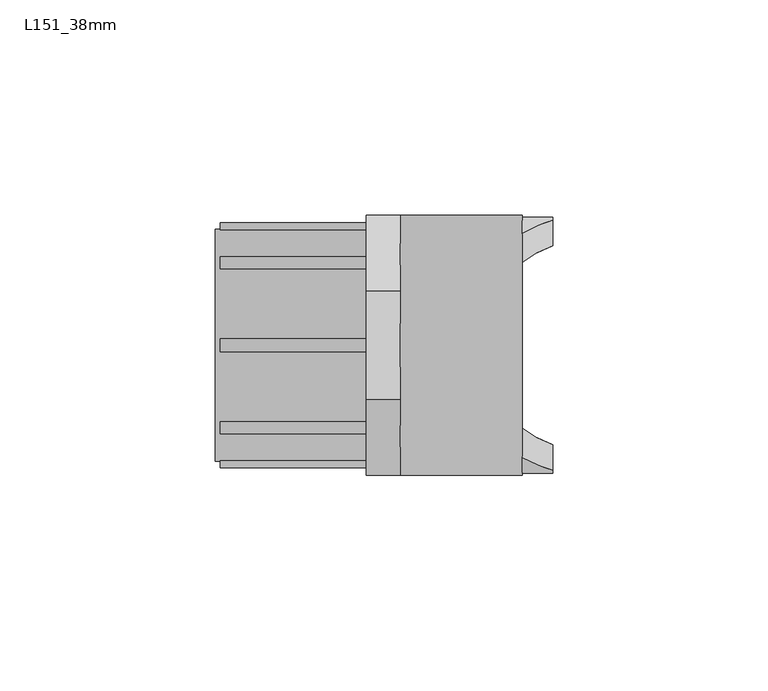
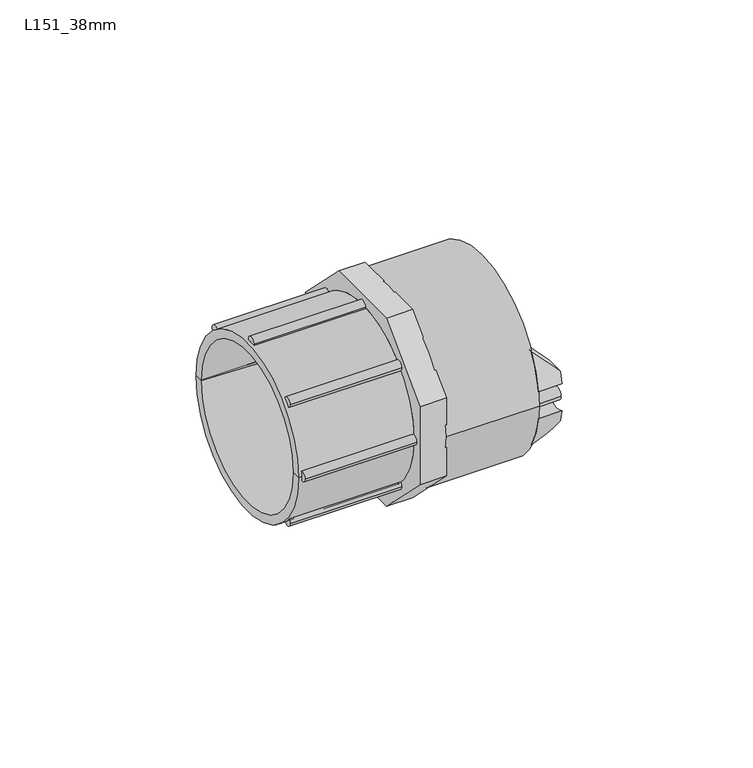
"""IFC4 building model written with IfcOpenShell, lengths in millimetres: pipe fitting geometry, Durapipe_PipeFitting_VulcatheneEnfusion_FItoPipeCoupler_L15 : L151_38mm."""

from ifc_helpers import new_model, si_unit, point, frame, frame_2d, origin, place, context, project, spatial, polyline, circle_curve, ellipse_curve, trimmed, segment, composite_curve, outline, extrude, source, transform, mapped, element, save
from ifc_brep_helpers import plane_surface, cylinder_surface, revolved_surface, advanced_brep


def l151_38mm_5ce0dcf7(model_context):
    return source(origin(), model_context, "Body", "SolidModel", [
        extrude(outline(composite_curve([segment(trimmed(circle_curve(frame_2d((-26.95, 0.0)), 1.5), [point((-25.45, 0.0))], [point((-28.45, 0.0))], False, "CARTESIAN"), True, "CONTINUOUS"), segment(trimmed(circle_curve(frame_2d((-26.95, 0.0)), 1.5), [point((-28.45, 0.0))], [point((-25.45, 0.0))], False, "CARTESIAN"), True, "CONTINUOUS")], self_intersect=False)), frame((-34.509375, 0.0, 0.0), z_axis=(1.0, 0.0, 0.0), x_axis=(0.0, 1.0, 0.0)), (0.0, 0.0, 1.0), 33.9189),
        extrude(outline(composite_curve([segment(trimmed(circle_curve(frame_2d((-19.0565278, -19.0565278)), 1.5), [point((-17.5565278, -19.0565278))], [point((-20.5565278, -19.0565278))], False, "CARTESIAN"), True, "CONTINUOUS"), segment(trimmed(circle_curve(frame_2d((-19.0565278, -19.0565278)), 1.5), [point((-20.5565278, -19.0565278))], [point((-17.5565278, -19.0565278))], False, "CARTESIAN"), True, "CONTINUOUS")], self_intersect=False)), frame((-34.509375, 0.0, 0.0), z_axis=(1.0, 0.0, 0.0), x_axis=(0.0, 1.0, 0.0)), (0.0, 0.0, 1.0), 33.9189),
        extrude(outline(composite_curve([segment(trimmed(circle_curve(frame_2d((0.0, -26.95)), 1.5), [point((1.5, -26.95))], [point((-1.5, -26.95))], False, "CARTESIAN"), True, "CONTINUOUS"), segment(trimmed(circle_curve(frame_2d((0.0, -26.95)), 1.5), [point((-1.5, -26.95))], [point((1.5, -26.95))], False, "CARTESIAN"), True, "CONTINUOUS")], self_intersect=False)), frame((-34.509375, 0.0, 0.0), z_axis=(1.0, 0.0, 0.0), x_axis=(0.0, 1.0, 0.0)), (0.0, 0.0, 1.0), 33.9189),
        extrude(outline(composite_curve([segment(trimmed(circle_curve(frame_2d((19.0565278, -19.0565278)), 1.5), [point((20.5565278, -19.0565278))], [point((17.5565278, -19.0565278))], False, "CARTESIAN"), True, "CONTINUOUS"), segment(trimmed(circle_curve(frame_2d((19.0565278, -19.0565278)), 1.5), [point((17.5565278, -19.0565278))], [point((20.5565278, -19.0565278))], False, "CARTESIAN"), True, "CONTINUOUS")], self_intersect=False)), frame((-34.509375, 0.0, 0.0), z_axis=(1.0, 0.0, 0.0), x_axis=(0.0, 1.0, 0.0)), (0.0, 0.0, 1.0), 33.9189),
        extrude(outline(composite_curve([segment(trimmed(circle_curve(frame_2d((26.95, 0.0)), 1.5), [point((28.45, 0.0))], [point((25.45, 0.0))], False, "CARTESIAN"), True, "CONTINUOUS"), segment(trimmed(circle_curve(frame_2d((26.95, 0.0)), 1.5), [point((25.45, 0.0))], [point((28.45, 0.0))], False, "CARTESIAN"), True, "CONTINUOUS")], self_intersect=False)), frame((-34.509375, 0.0, 0.0), z_axis=(1.0, 0.0, 0.0), x_axis=(0.0, 1.0, 0.0)), (0.0, 0.0, 1.0), 33.9189),
        extrude(outline(composite_curve([segment(trimmed(circle_curve(frame_2d((19.0565278, 19.0565278)), 1.5), [point((20.5565278, 19.0565278))], [point((17.5565278, 19.0565278))], False, "CARTESIAN"), True, "CONTINUOUS"), segment(trimmed(circle_curve(frame_2d((19.0565278, 19.0565278)), 1.5), [point((17.5565278, 19.0565278))], [point((20.5565278, 19.0565278))], False, "CARTESIAN"), True, "CONTINUOUS")], self_intersect=False)), frame((-34.509375, 0.0, 0.0), z_axis=(1.0, 0.0, 0.0), x_axis=(0.0, 1.0, 0.0)), (0.0, 0.0, 1.0), 33.9189),
        extrude(outline(composite_curve([segment(trimmed(circle_curve(frame_2d((0.0, 26.95)), 1.5), [point((1.5, 26.95))], [point((-1.5, 26.95))], False, "CARTESIAN"), True, "CONTINUOUS"), segment(trimmed(circle_curve(frame_2d((0.0, 26.95)), 1.5), [point((-1.5, 26.95))], [point((1.5, 26.95))], False, "CARTESIAN"), True, "CONTINUOUS")], self_intersect=False)), frame((-34.509375, 0.0, 0.0), z_axis=(1.0, 0.0, 0.0), x_axis=(0.0, 1.0, 0.0)), (0.0, 0.0, 1.0), 33.9189),
        extrude(outline(composite_curve([segment(trimmed(circle_curve(frame_2d((-19.0565278, 19.0565278)), 1.5), [point((-17.5565278, 19.0565278))], [point((-20.5565278, 19.0565278))], False, "CARTESIAN"), True, "CONTINUOUS"), segment(trimmed(circle_curve(frame_2d((-19.0565278, 19.0565278)), 1.5), [point((-20.5565278, 19.0565278))], [point((-17.5565278, 19.0565278))], False, "CARTESIAN"), True, "CONTINUOUS")], self_intersect=False)), frame((-34.509375, 0.0, 0.0), z_axis=(1.0, 0.0, 0.0), x_axis=(0.0, 1.0, 0.0)), (0.0, 0.0, 1.0), 33.9189),
        advanced_brep(
        [(42.8, 24.1380041, 3.893489), (42.8, 29.7880041, 4.322593), (42.8, 29.0338837, 7.94), (42.8, 23.1248546, 7.94), (35.7, 26.0961683, 15.0), (35.7, 29.7880041, 4.322593), (35.7, 24.1380041, 3.893489), (35.7, 19.3080942, 15.0)],
        [
            (0, 1, circle_curve(frame((42.8, 27.275, 0.0), z_axis=(-1.0, 0.0, 0.0), x_axis=(0.0, -1.0, 0.0)), 5.0)),
            (1, 2, circle_curve(frame((42.8, 0.0, 0.0), z_axis=(1.0, 0.0, 0.0), x_axis=(0.0, -1.0, 0.0)), 30.1)),
            (2, 3),
            (3, 0, circle_curve(frame((42.8, 0.0, 0.0), z_axis=(-1.0, 0.0, 0.0), x_axis=(0.0, -1.0, 0.0)), 24.45)),
            (4, 5, circle_curve(frame((35.7, 0.0, 0.0), z_axis=(-1.0, 0.0, 0.0), x_axis=(0.0, -1.0, 0.0)), 30.1)),
            (5, 6, circle_curve(frame((35.7, 27.275, 0.0), z_axis=(1.0, 0.0, 0.0), x_axis=(0.0, -1.0, 0.0)), 5.0)),
            (6, 7, circle_curve(frame((35.7, 0.0, 0.0), z_axis=(1.0, 0.0, 0.0), x_axis=(0.0, -1.0, 0.0)), 24.45)),
            (7, 4),
            (6, 0),
            (3, 7, ellipse_curve(frame((50.7849858, 0.0, 0.0), z_axis=(0.7051064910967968, 0.0, 0.7091014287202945), x_axis=(-0.7091014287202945, 0.0, 0.7051064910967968)), 34.6756133, 24.45)),
            (4, 2, ellipse_curve(frame((50.7849858, 0.0, 0.0), z_axis=(-0.7051064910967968, 0.0, -0.7091014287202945), x_axis=(0.7091014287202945, 0.0, -0.7051064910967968)), 42.6885873, 30.1)),
            (1, 5),
        ],
        [
            plane_surface(frame((42.8, 26.0961683, 15.0), z_axis=(1.0, 0.0, 0.0), x_axis=(0.0, -1.0, 0.0))),
            plane_surface(frame((35.7, 26.0961683, 15.0), z_axis=(-1.0, 0.0, 0.0), x_axis=(0.0, 1.0, 0.0))),
            revolved_surface(polyline([(26.196458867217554, -24.45, 0.0), (75.37351273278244, -24.45, 0.0)]), (35.7, 0.0, 0.0), (-1.0, 0.0, 0.0)),
            cylinder_surface(frame((35.7, 0.0, 0.0), z_axis=(1.0, 0.0, 0.0), x_axis=(0.0, -1.0, 0.0)), 30.1),
            revolved_surface(polyline([(42.8, 22.275, 0.0), (35.7, 22.275, 0.0)]), (35.7, 27.275, 0.0), (1.0, 0.0, 0.0)),
            plane_surface(frame((35.7, -30.1, 15.0), z_axis=(0.7051064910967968, 0.0, 0.7091014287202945), x_axis=(0.0, 1.0, 0.0))),
        ],
        [
            (0, [[1, 2, 3, 4]]),
            (1, [[5, 6, 7, 8]]),
            (2, [[-7, 9, -4, 10]]),
            (3, [[-5, 11, -2, 12]]),
            (4, [[-1, -9, -6, -12]]),
            (5, [[-3, -11, -8, -10]]),
        ],
    ),
        advanced_brep(
        [(42.8, 29.7880041, -4.322593), (42.8, 24.1380041, -3.893489), (42.8, 23.1248546, -7.94), (42.8, 29.0338837, -7.94), (35.7, 29.7880041, -4.322593), (35.7, 26.0961683, -15.0), (35.7, 19.3080942, -15.0), (35.7, 24.1380041, -3.893489)],
        [
            (0, 1, circle_curve(frame((42.8, 27.275, 0.0), z_axis=(-1.0, 0.0, 0.0), x_axis=(0.0, -1.0, 0.0)), 5.0)),
            (1, 2, circle_curve(frame((42.8, 0.0, 0.0), z_axis=(-1.0, 0.0, 0.0), x_axis=(0.0, -1.0, 0.0)), 24.45)),
            (2, 3),
            (3, 0, circle_curve(frame((42.8, 0.0, 0.0), z_axis=(1.0, 0.0, 0.0), x_axis=(0.0, -1.0, 0.0)), 30.1)),
            (4, 5, circle_curve(frame((35.7, 0.0, 0.0), z_axis=(-1.0, 0.0, 0.0), x_axis=(0.0, -1.0, 0.0)), 30.1)),
            (5, 6),
            (6, 7, circle_curve(frame((35.7, 0.0, 0.0), z_axis=(1.0, 0.0, 0.0), x_axis=(0.0, -1.0, 0.0)), 24.45)),
            (7, 4, circle_curve(frame((35.7, 27.275, 0.0), z_axis=(1.0, 0.0, 0.0), x_axis=(0.0, -1.0, 0.0)), 5.0)),
            (6, 2, ellipse_curve(frame((50.7849858, 0.0, 0.0), z_axis=(0.7051064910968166, 0.0, -0.7091014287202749), x_axis=(-0.7091014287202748, 0.0, -0.7051064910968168)), 34.6756133, 24.45)),
            (1, 7),
            (4, 0),
            (3, 5, ellipse_curve(frame((50.7849858, 0.0, 0.0), z_axis=(-0.7051064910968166, 0.0, 0.7091014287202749), x_axis=(0.7091014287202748, 0.0, 0.7051064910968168)), 42.6885873, 30.1)),
        ],
        [
            plane_surface(frame((42.8, 26.0961683, 15.0), z_axis=(1.0, 0.0, 0.0), x_axis=(0.0, -1.0, 0.0))),
            plane_surface(frame((35.7, 26.0961683, 15.0), z_axis=(-1.0, 0.0, 0.0), x_axis=(0.0, 1.0, 0.0))),
            revolved_surface(polyline([(26.196458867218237, -24.45, 0.0), (75.37351273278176, -24.45, 0.0)]), (35.7, 0.0, 0.0), (-1.0, 0.0, 0.0)),
            cylinder_surface(frame((35.7, 0.0, 0.0), z_axis=(1.0, 0.0, 0.0), x_axis=(0.0, -1.0, 0.0)), 30.1),
            revolved_surface(polyline([(42.8, 22.275, 0.0), (35.7, 22.275, 0.0)]), (35.7, 27.275, 0.0), (1.0, 0.0, 0.0)),
            plane_surface(frame((42.8, -30.1, -7.94), z_axis=(0.7051064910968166, 0.0, -0.7091014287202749), x_axis=(0.0, 1.0, 0.0))),
        ],
        [
            (0, [[1, 2, 3, 4]]),
            (1, [[5, 6, 7, 8]]),
            (2, [[-7, 9, -2, 10]]),
            (3, [[-5, 11, -4, 12]]),
            (4, [[-1, -11, -8, -10]]),
            (5, [[-3, -9, -6, -12]]),
        ],
    ),
        advanced_brep(
        [(42.8, -29.7880041, 4.322593), (42.8, -24.1380041, 3.893489), (42.8, -23.1248546, 7.94), (42.8, -29.0338837, 7.94), (35.7, -29.7880041, 4.322593), (35.7, -26.0961683, 15.0), (35.7, -19.3080942, 15.0), (35.7, -24.1380041, 3.893489)],
        [
            (0, 1, circle_curve(frame((42.8, -27.275, 0.0), z_axis=(-1.0, 0.0, 0.0), x_axis=(0.0, -1.0, 0.0)), 5.0)),
            (1, 2, circle_curve(frame((42.8, 0.0, 0.0), z_axis=(-1.0, 0.0, 0.0), x_axis=(0.0, -1.0, 0.0)), 24.45)),
            (2, 3),
            (3, 0, circle_curve(frame((42.8, 0.0, 0.0), z_axis=(1.0, 0.0, 0.0), x_axis=(0.0, -1.0, 0.0)), 30.1)),
            (4, 5, circle_curve(frame((35.7, 0.0, 0.0), z_axis=(-1.0, 0.0, 0.0), x_axis=(0.0, -1.0, 0.0)), 30.1)),
            (5, 6),
            (6, 7, circle_curve(frame((35.7, 0.0, 0.0), z_axis=(1.0, 0.0, 0.0), x_axis=(0.0, -1.0, 0.0)), 24.45)),
            (7, 4, circle_curve(frame((35.7, -27.275, 0.0), z_axis=(1.0, 0.0, 0.0), x_axis=(0.0, -1.0, 0.0)), 5.0)),
            (6, 2, ellipse_curve(frame((50.7849858, 0.0, 0.0), z_axis=(0.7051064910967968, 0.0, 0.7091014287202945), x_axis=(-0.7091014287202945, 0.0, 0.7051064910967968)), 34.6756133, 24.45)),
            (1, 7),
            (4, 0),
            (3, 5, ellipse_curve(frame((50.7849858, 0.0, 0.0), z_axis=(-0.7051064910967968, 0.0, -0.7091014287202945), x_axis=(0.7091014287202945, 0.0, -0.7051064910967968)), 42.6885873, 30.1)),
        ],
        [
            plane_surface(frame((42.8, 26.0961683, 15.0), z_axis=(1.0, 0.0, 0.0), x_axis=(0.0, -1.0, 0.0))),
            plane_surface(frame((35.7, 26.0961683, 15.0), z_axis=(-1.0, 0.0, 0.0), x_axis=(0.0, 1.0, 0.0))),
            revolved_surface(polyline([(26.196458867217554, -24.45, 0.0), (75.37351273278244, -24.45, 0.0)]), (35.7, 0.0, 0.0), (-1.0, 0.0, 0.0)),
            cylinder_surface(frame((35.7, 0.0, 0.0), z_axis=(1.0, 0.0, 0.0), x_axis=(0.0, -1.0, 0.0)), 30.1),
            revolved_surface(polyline([(42.8, -32.275, 0.0), (35.7, -32.275, 0.0)]), (35.7, -27.275, 0.0), (1.0, 0.0, 0.0)),
            plane_surface(frame((35.7, -30.1, 15.0), z_axis=(0.7051064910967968, 0.0, 0.7091014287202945), x_axis=(0.0, 1.0, 0.0))),
        ],
        [
            (0, [[1, 2, 3, 4]]),
            (1, [[5, 6, 7, 8]]),
            (2, [[-7, 9, -2, 10]]),
            (3, [[-5, 11, -4, 12]]),
            (4, [[-1, -11, -8, -10]]),
            (5, [[-3, -9, -6, -12]]),
        ],
    ),
        advanced_brep(
        [(42.8, -24.1380041, -3.893489), (42.8, -29.7880041, -4.322593), (42.8, -29.0338837, -7.94), (42.8, -23.1248546, -7.94), (35.7, -26.0961683, -15.0), (35.7, -29.7880041, -4.322593), (35.7, -24.1380041, -3.893489), (35.7, -19.3080942, -15.0)],
        [
            (0, 1, circle_curve(frame((42.8, -27.275, 0.0), z_axis=(-1.0, 0.0, 0.0), x_axis=(0.0, -1.0, 0.0)), 5.0)),
            (1, 2, circle_curve(frame((42.8, 0.0, 0.0), z_axis=(1.0, 0.0, 0.0), x_axis=(0.0, -1.0, 0.0)), 30.1)),
            (2, 3),
            (3, 0, circle_curve(frame((42.8, 0.0, 0.0), z_axis=(-1.0, 0.0, 0.0), x_axis=(0.0, -1.0, 0.0)), 24.45)),
            (4, 5, circle_curve(frame((35.7, 0.0, 0.0), z_axis=(-1.0, 0.0, 0.0), x_axis=(0.0, -1.0, 0.0)), 30.1)),
            (5, 6, circle_curve(frame((35.7, -27.275, 0.0), z_axis=(1.0, 0.0, 0.0), x_axis=(0.0, -1.0, 0.0)), 5.0)),
            (6, 7, circle_curve(frame((35.7, 0.0, 0.0), z_axis=(1.0, 0.0, 0.0), x_axis=(0.0, -1.0, 0.0)), 24.45)),
            (7, 4),
            (6, 0),
            (3, 7, ellipse_curve(frame((50.7849858, 0.0, 0.0), z_axis=(0.7051064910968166, 0.0, -0.7091014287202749), x_axis=(-0.7091014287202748, 0.0, -0.7051064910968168)), 34.6756133, 24.45)),
            (4, 2, ellipse_curve(frame((50.7849858, 0.0, 0.0), z_axis=(-0.7051064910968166, 0.0, 0.7091014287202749), x_axis=(0.7091014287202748, 0.0, 0.7051064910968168)), 42.6885873, 30.1)),
            (1, 5),
        ],
        [
            plane_surface(frame((42.8, 26.0961683, 15.0), z_axis=(1.0, 0.0, 0.0), x_axis=(0.0, -1.0, 0.0))),
            plane_surface(frame((35.7, 26.0961683, 15.0), z_axis=(-1.0, 0.0, 0.0), x_axis=(0.0, 1.0, 0.0))),
            revolved_surface(polyline([(26.196458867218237, -24.45, 0.0), (75.37351273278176, -24.45, 0.0)]), (35.7, 0.0, 0.0), (-1.0, 0.0, 0.0)),
            cylinder_surface(frame((35.7, 0.0, 0.0), z_axis=(1.0, 0.0, 0.0), x_axis=(0.0, -1.0, 0.0)), 30.1),
            revolved_surface(polyline([(42.8, -32.275, 0.0), (35.7, -32.275, 0.0)]), (35.7, -27.275, 0.0), (1.0, 0.0, 0.0)),
            plane_surface(frame((42.8, -30.1, -7.94), z_axis=(0.7051064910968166, 0.0, -0.7091014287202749), x_axis=(0.0, 1.0, 0.0))),
        ],
        [
            (0, [[1, 2, 3, 4]]),
            (1, [[5, 6, 7, 8]]),
            (2, [[-7, 9, -4, 10]]),
            (3, [[-5, 11, -2, 12]]),
            (4, [[-1, -9, -6, -12]]),
            (5, [[-3, -11, -8, -10]]),
        ],
    ),
        extrude(outline(composite_curve([segment(trimmed(circle_curve(frame_2d((27.275, 0.0)), 2.0), [point((29.275, 0.0))], [point((25.275, 0.0))], False, "CARTESIAN"), True, "CONTINUOUS"), segment(trimmed(circle_curve(frame_2d((27.275, 0.0)), 2.0), [point((25.275, 0.0))], [point((29.275, 0.0))], False, "CARTESIAN"), True, "CONTINUOUS")], self_intersect=False)), frame((35.7, 0.0, 0.0), z_axis=(1.0, 0.0, 0.0), x_axis=(0.0, 1.0, 0.0)), (0.0, 0.0, 1.0), 7.1),
        extrude(outline(composite_curve([segment(trimmed(circle_curve(frame_2d((-27.275, 0.0)), 2.0), [point((-25.275, 0.0))], [point((-29.275, 0.0))], False, "CARTESIAN"), True, "CONTINUOUS"), segment(trimmed(circle_curve(frame_2d((-27.275, 0.0)), 2.0), [point((-29.275, 0.0))], [point((-25.275, 0.0))], False, "CARTESIAN"), True, "CONTINUOUS")], self_intersect=False)), frame((35.7, 0.0, 0.0), z_axis=(1.0, 0.0, 0.0), x_axis=(0.0, 1.0, 0.0)), (0.0, 0.0, 1.0), 7.1),
        advanced_brep(
        [(35.7, 30.25, 0.0), (35.7, -30.25, 0.0), (7.347025, -30.25, 0.0), (7.347025, -21.3899801, -21.3899801), (7.347025, 0.0, -30.25), (7.347025, 21.3899801, -21.3899801), (7.347025, 30.25, 0.0), (7.347025, 21.3899801, 21.3899801), (7.347025, 0.0, 30.25), (7.347025, -21.3899801, 21.3899801), (-35.7, -24.3, 0.0), (-35.7, 24.3, 0.0), (-35.7, 27.0, 0.0), (-35.7, -27.0, 0.0), (35.7, 24.3, 0.0), (35.7, -24.3, 0.0), (10.2, -20.3, 0.0), (10.2, 20.3, 0.0), (3.7, 20.3, 0.0), (3.7, -20.3, 0.0), (10.2, -24.3, 0.0), (10.2, 24.3, 0.0), (2.9, -22.85, 0.0), (2.9, 22.85, 0.0), (-0.590475, -30.25, 12.5299603), (-0.590475, -12.5299603, 30.25), (-0.590475, 12.5299603, 30.25), (-0.590475, 30.25, 12.5299603), (-0.590475, 30.25, -12.5299603), (-0.590475, 12.5299603, -30.25), (-0.590475, -12.5299603, -30.25), (-0.590475, -30.25, -12.5299603), (-0.590475, -27.0, 0.0), (-0.590475, 27.0, 0.0), (7.347025, 30.25, -12.5299603), (7.347025, 30.25, 12.5299603), (7.347025, -30.25, 12.5299603), (7.347025, -30.25, -12.5299603), (7.347025, 12.5299603, 30.25), (7.347025, -12.5299603, 30.25), (7.347025, -12.5299603, -30.25), (7.347025, 12.5299603, -30.25)],
        [
            (0, 1, circle_curve(frame((35.7, 0.0, 0.0), z_axis=(-1.0, 0.0, 0.0), x_axis=(0.0, 1.0, 0.0)), 30.25)),
            (1, 2),
            (2, 3, circle_curve(frame((7.347025, 0.0, 0.0), z_axis=(1.0, 0.0, 0.0), x_axis=(0.0, 1.0, 0.0)), 30.25)),
            (3, 4, circle_curve(frame((7.347025, 0.0, 0.0), z_axis=(1.0, 0.0, 0.0), x_axis=(0.0, 1.0, 0.0)), 30.25)),
            (4, 5, circle_curve(frame((7.347025, 0.0, 0.0), z_axis=(1.0, 0.0, 0.0), x_axis=(0.0, 1.0, 0.0)), 30.25)),
            (5, 6, circle_curve(frame((7.347025, 0.0, 0.0), z_axis=(1.0, 0.0, 0.0), x_axis=(0.0, 1.0, 0.0)), 30.25)),
            (6, 0),
            (1, 0, circle_curve(frame((35.7, 0.0, 0.0), z_axis=(-1.0, 0.0, 0.0), x_axis=(0.0, 1.0, 0.0)), 30.25)),
            (6, 7, circle_curve(frame((7.347025, 0.0, 0.0), z_axis=(1.0, 0.0, 0.0), x_axis=(0.0, 1.0, 0.0)), 30.25)),
            (7, 8, circle_curve(frame((7.347025, 0.0, 0.0), z_axis=(1.0, 0.0, 0.0), x_axis=(0.0, 1.0, 0.0)), 30.25)),
            (8, 9, circle_curve(frame((7.347025, 0.0, 0.0), z_axis=(1.0, 0.0, 0.0), x_axis=(0.0, 1.0, 0.0)), 30.25)),
            (9, 2, circle_curve(frame((7.347025, 0.0, 0.0), z_axis=(1.0, 0.0, 0.0), x_axis=(0.0, 1.0, 0.0)), 30.25)),
            (10, 11, circle_curve(frame((-35.7, 0.0, 0.0), z_axis=(1.0, 0.0, 0.0), x_axis=(0.0, 1.0, 0.0)), 24.3)),
            (11, 12),
            (12, 13, circle_curve(frame((-35.7, 0.0, 0.0), z_axis=(-1.0, 0.0, 0.0), x_axis=(0.0, 1.0, 0.0)), 27.0)),
            (13, 10),
            (11, 10, circle_curve(frame((-35.7, 0.0, 0.0), z_axis=(1.0, 0.0, 0.0), x_axis=(0.0, 1.0, 0.0)), 24.3)),
            (13, 12, circle_curve(frame((-35.7, 0.0, 0.0), z_axis=(-1.0, 0.0, 0.0), x_axis=(0.0, 1.0, 0.0)), 27.0)),
            (0, 14),
            (14, 15, circle_curve(frame((35.7, 0.0, 0.0), z_axis=(-1.0, 0.0, 0.0), x_axis=(0.0, 1.0, 0.0)), 24.3)),
            (15, 1),
            (15, 14, circle_curve(frame((35.7, 0.0, 0.0), z_axis=(-1.0, 0.0, 0.0), x_axis=(0.0, 1.0, 0.0)), 24.3)),
            (16, 17, circle_curve(frame((10.2, 0.0, 0.0), z_axis=(1.0, 0.0, 0.0), x_axis=(0.0, 1.0, 0.0)), 20.3)),
            (17, 18),
            (18, 19, circle_curve(frame((3.7, 0.0, 0.0), z_axis=(-1.0, 0.0, 0.0), x_axis=(0.0, 1.0, 0.0)), 20.3)),
            (19, 16),
            (17, 16, circle_curve(frame((10.2, 0.0, 0.0), z_axis=(1.0, 0.0, 0.0), x_axis=(0.0, 1.0, 0.0)), 20.3)),
            (19, 18, circle_curve(frame((3.7, 0.0, 0.0), z_axis=(-1.0, 0.0, 0.0), x_axis=(0.0, 1.0, 0.0)), 20.3)),
            (16, 20),
            (20, 21, circle_curve(frame((10.2, 0.0, 0.0), z_axis=(1.0, 0.0, 0.0), x_axis=(0.0, 1.0, 0.0)), 24.3)),
            (21, 17),
            (21, 20, circle_curve(frame((10.2, 0.0, 0.0), z_axis=(1.0, 0.0, 0.0), x_axis=(0.0, 1.0, 0.0)), 24.3)),
            (14, 21),
            (20, 15),
            (10, 22),
            (22, 23, circle_curve(frame((2.9, 0.0, 0.0), z_axis=(1.0, 0.0, 0.0), x_axis=(0.0, 1.0, 0.0)), 22.85)),
            (23, 11),
            (23, 22, circle_curve(frame((2.9, 0.0, 0.0), z_axis=(1.0, 0.0, 0.0), x_axis=(0.0, 1.0, 0.0)), 22.85)),
            (18, 23),
            (22, 19),
            (24, 25),
            (25, 26),
            (26, 27),
            (27, 28),
            (28, 29),
            (29, 30),
            (30, 31),
            (31, 24),
            (32, 33, circle_curve(frame((-0.590475, 0.0, 0.0), z_axis=(1.0, 0.0, 0.0), x_axis=(0.0, 1.0, 0.0)), 27.0)),
            (33, 32, circle_curve(frame((-0.590475, 0.0, 0.0), z_axis=(1.0, 0.0, 0.0), x_axis=(0.0, 1.0, 0.0)), 27.0)),
            (12, 33),
            (32, 13),
            (34, 6),
            (5, 34),
            (6, 35),
            (35, 7),
            (36, 2),
            (9, 36),
            (2, 37),
            (37, 3),
            (38, 8),
            (7, 38),
            (8, 39),
            (39, 9),
            (3, 40),
            (40, 4),
            (4, 41),
            (41, 5),
            (38, 26),
            (25, 39),
            (24, 36),
            (31, 37),
            (30, 40),
            (29, 41),
            (28, 34),
            (27, 35),
        ],
        [
            cylinder_surface(frame((1572.8518184, 0.0, 0.0), z_axis=(-1.0, 0.0, 0.0), x_axis=(0.0, 1.0, 0.0)), 30.25),
            plane_surface(frame((-35.7, 0.0, 0.0), z_axis=(-1.0, 0.0, 0.0), x_axis=(0.0, 1.0, 0.0))),
            plane_surface(frame((35.7, 0.0, 0.0), z_axis=(1.0, 0.0, 0.0), x_axis=(0.0, 1.0, 0.0))),
            revolved_surface(polyline([(3.7000000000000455, 20.3, 0.0), (10.200000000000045, 20.3, 0.0)]), (1572.8518184, 0.0, 0.0), (-1.0, 0.0, 0.0)),
            plane_surface(frame((10.2, 0.0, 0.0), z_axis=(1.0, 0.0, 0.0), x_axis=(0.0, 1.0, 0.0))),
            revolved_surface(polyline([(10.200000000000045, 24.3, 0.0), (35.700000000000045, 24.3, 0.0)]), (1572.8518184, 0.0, 0.0), (-1.0, 0.0, 0.0)),
            revolved_surface(polyline([(-35.7, 24.3, 0.0), (2.9, 22.85, 0.0)]), (1572.8518184, 0.0, 0.0), (-1.0, 0.0, 0.0)),
            revolved_surface(polyline([(2.9, 22.85, 0.0), (3.7, 20.3, 0.0)]), (1572.8518184, 0.0, 0.0), (-1.0, 0.0, 0.0)),
            plane_surface(frame((-0.590475, 0.0, 0.0), z_axis=(-1.0, 0.0, 0.0), x_axis=(0.0, 1.0, 0.0))),
            cylinder_surface(frame((1572.8518184, 0.0, 0.0), z_axis=(-1.0, 0.0, 0.0), x_axis=(0.0, 1.0, 0.0)), 27.0),
            plane_surface(frame((7.347025, 12.5299603, 30.25), z_axis=(1.0, 0.0, 0.0), x_axis=(0.0, -1.0, 0.0))),
            plane_surface(frame((7.347025, 12.5299603, 30.25), z_axis=(0.0, 0.0, 1.0), x_axis=(-1.0, 0.0, 0.0))),
            plane_surface(frame((7.347025, -12.5299603, 30.25), z_axis=(0.0, -0.7071067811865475, 0.7071067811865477), x_axis=(-1.0, 0.0, 0.0))),
            plane_surface(frame((7.347025, -30.25, 12.5299603), z_axis=(0.0, -1.0, 0.0), x_axis=(-1.0, 0.0, 0.0))),
            plane_surface(frame((7.347025, -30.25, -12.5299603), z_axis=(0.0, -0.7071067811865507, -0.7071067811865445), x_axis=(-1.0, 0.0, 0.0))),
            plane_surface(frame((7.347025, -12.5299603, -30.25), z_axis=(0.0, 0.0, -1.0), x_axis=(-1.0, 0.0, 0.0))),
            plane_surface(frame((7.347025, 12.5299603, -30.25), z_axis=(0.0, 0.7071067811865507, -0.7071067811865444), x_axis=(-1.0, 0.0, 0.0))),
            plane_surface(frame((7.347025, 30.25, -12.5299603), z_axis=(0.0, 1.0, 0.0), x_axis=(-1.0, 0.0, 0.0))),
            plane_surface(frame((7.347025, 30.25, 12.5299603), z_axis=(0.0, 0.7071067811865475, 0.7071067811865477), x_axis=(-1.0, 0.0, 0.0))),
        ],
        [
            (0, [[1, 2, 3, 4, 5, 6, 7]]),
            (0, [[8, -7, 9, 10, 11, 12, -2]]),
            (1, [[13, 14, 15, 16]]),
            (1, [[-14, 17, -16, 18]]),
            (2, [[-1, 19, 20, 21]]),
            (2, [[-8, -21, 22, -19]]),
            (3, [[23, 24, 25, 26]]),
            (3, [[-24, 27, -26, 28]]),
            (4, [[-23, 29, 30, 31]]),
            (4, [[-27, -31, 32, -29]]),
            (5, [[-20, 33, -30, 34]]),
            (5, [[-22, -34, -32, -33]]),
            (6, [[-13, 35, 36, 37]]),
            (6, [[-17, -37, 38, -35]]),
            (7, [[-25, 39, -36, 40]]),
            (7, [[-28, -40, -38, -39]]),
            (8, [[41, 42, 43, 44, 45, 46, 47, 48], [49, 50]]),
            (9, [[-15, 51, -49, 52]]),
            (9, [[-18, -52, -50, -51]]),
            (10, [[53, -6, 54]]),
            (10, [[55, 56, -9]]),
            (10, [[57, -12, 58]]),
            (10, [[59, 60, -3]]),
            (10, [[61, -10, 62]]),
            (10, [[63, 64, -11]]),
            (10, [[65, 66, -4]]),
            (10, [[67, 68, -5]]),
            (11, [[69, -42, 70, -63, -61]]),
            (12, [[-70, -41, 71, -58, -64]]),
            (13, [[-71, -48, 72, -59, -57]]),
            (14, [[-72, -47, 73, -65, -60]]),
            (15, [[-73, -46, 74, -67, -66]]),
            (16, [[-74, -45, 75, -54, -68]]),
            (17, [[-75, -44, 76, -55, -53]]),
            (18, [[-43, -69, -62, -56, -76]]),
        ],
    ),
    ])


if __name__ == "__main__":
    model = new_model("IFC4")
    model_context = context("Model", 3, world=origin())
    ifc_project = project(units=[si_unit("LENGTHUNIT", "METRE", prefix="MILLI")], contexts=[model_context])
    site = spatial("IfcSite", under=ifc_project)
    building = spatial("IfcBuilding", under=site)
    placement = place(None, origin())
    l151_38mm_shape = l151_38mm_5ce0dcf7(model_context)
    element("IfcPipeFitting", 1, ObjectType="Durapipe_PipeFitting_VulcatheneEnfusion_FItoPipeCoupler_L15 : L151_38mm", at=placement, inside=building, context=model_context, shape_type="MappedRepresentation", body=[
        mapped(l151_38mm_shape, transform((0.0, 0.0, 0.0), x_axis=(1.0, 0.0, 0.0), y_axis=(0.0, 1.0, 0.0), z_axis=(0.0, 0.0, 1.0))),
    ])
    save(model, "model.ifc")
